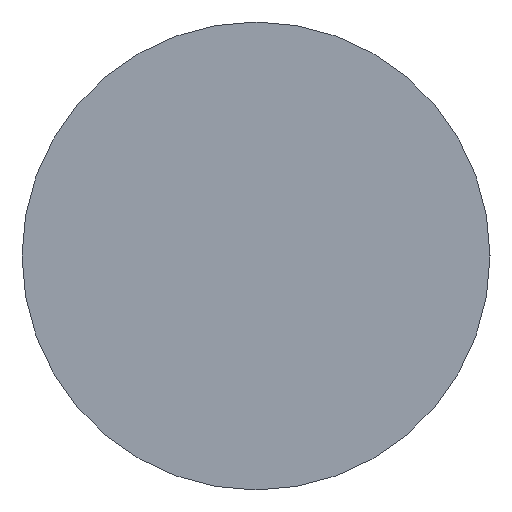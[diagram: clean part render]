
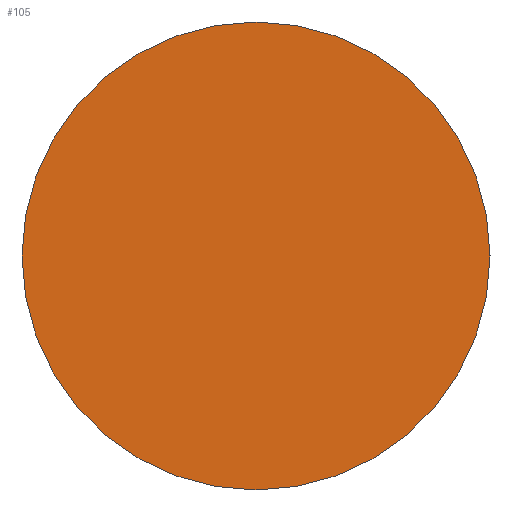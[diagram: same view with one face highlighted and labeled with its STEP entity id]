
A CAD part, left-side view. The second image highlights one B-rep face of the part: STEP entity #105.
In plain terms, the highlighted planar face has unit normal (-1, 0, 0).
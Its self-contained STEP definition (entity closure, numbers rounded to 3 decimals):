
#22 = VERTEX_POINT('',#23);
#23 = CARTESIAN_POINT('',(-45.,4.,0.));
#32 = CYLINDRICAL_SURFACE('',#33,4.);
#33 = AXIS2_PLACEMENT_3D('',#34,#35,#36);
#34 = CARTESIAN_POINT('',(-45.,0.,0.));
#35 = DIRECTION('',(-1.,-0.,-0.));
#36 = DIRECTION('',(0.,1.,0.));
#79 = EDGE_CURVE('',#22,#22,#80,.T.);
#80 = SURFACE_CURVE('',#81,(#86,#93),.PCURVE_S1.);
#81 = CIRCLE('',#82,4.);
#82 = AXIS2_PLACEMENT_3D('',#83,#84,#85);
#83 = CARTESIAN_POINT('',(-45.,0.,0.));
#84 = DIRECTION('',(1.,0.,0.));
#85 = DIRECTION('',(0.,1.,0.));
#86 = PCURVE('',#32,#87);
#87 = DEFINITIONAL_REPRESENTATION('',(#88),#92);
#88 = LINE('',#89,#90);
#89 = CARTESIAN_POINT('',(-0.,0.));
#90 = VECTOR('',#91,1.);
#91 = DIRECTION('',(-1.,0.));
#92 = ( GEOMETRIC_REPRESENTATION_CONTEXT(2) 
PARAMETRIC_REPRESENTATION_CONTEXT() REPRESENTATION_CONTEXT('2D SPACE',''
  ) );
#93 = PCURVE('',#94,#99);
#94 = PLANE('',#95);
#95 = AXIS2_PLACEMENT_3D('',#96,#97,#98);
#96 = CARTESIAN_POINT('',(-45.,0.,0.));
#97 = DIRECTION('',(1.,0.,0.));
#98 = DIRECTION('',(-0.,0.,1.));
#99 = DEFINITIONAL_REPRESENTATION('',(#100),#104);
#100 = CIRCLE('',#101,4.);
#101 = AXIS2_PLACEMENT_2D('',#102,#103);
#102 = CARTESIAN_POINT('',(0.,0.));
#103 = DIRECTION('',(0.,-1.));
#104 = ( GEOMETRIC_REPRESENTATION_CONTEXT(2) 
PARAMETRIC_REPRESENTATION_CONTEXT() REPRESENTATION_CONTEXT('2D SPACE',''
  ) );
#105 = ADVANCED_FACE('',(#106),#94,.F.);
#106 = FACE_BOUND('',#107,.F.);
#107 = EDGE_LOOP('',(#108));
#108 = ORIENTED_EDGE('',*,*,#79,.T.);
